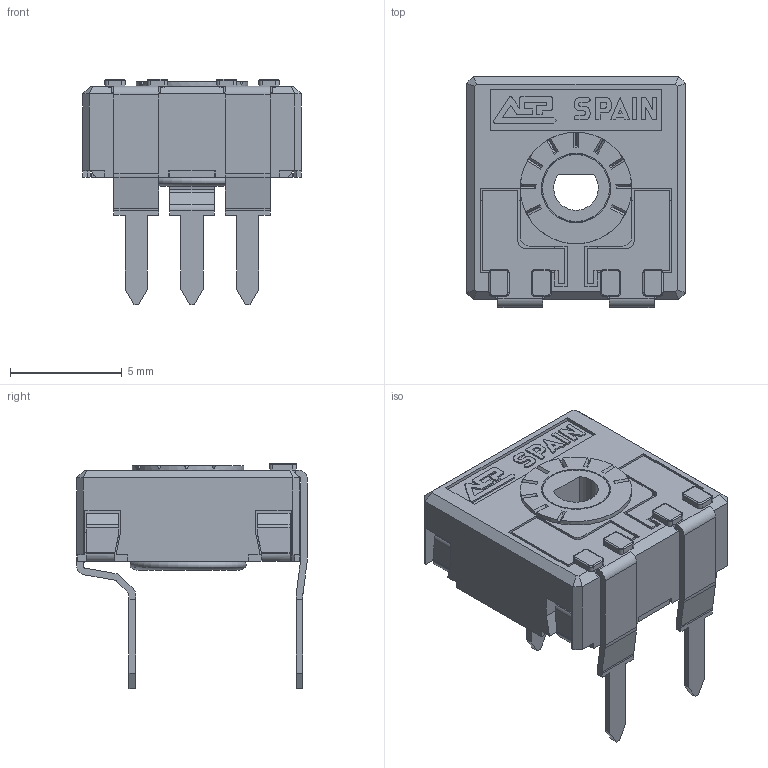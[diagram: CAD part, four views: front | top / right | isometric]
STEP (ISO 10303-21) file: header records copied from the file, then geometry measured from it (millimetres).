
FILE_DESCRIPTION(/* description */ (''),/* implementation_level */ '2;1');
FILE_NAME(/* name */ '\\SERVERACP\intercambio\Ignacio Santa Cecilia\Nueva WEB 2025\CA9 - CE9\CA9DV7,5.stp',/* time_stamp */ '2025-06-03T16:43:34+02:00',/* author */ ('CEM'),/* organization */ (''),/* preprocessor_version */ 'ST-DEVELOPER v17',/* originating_system */ 'Autodesk Inventor 2018',/* authorisation */ '');
FILE_SCHEMA (('AUTOMOTIVE_DESIGN { 1 0 10303 214 3 1 1 }'));
Length unit declared in the file: millimetre
Products named in the file (1): CA9DV7,5
Bounding box: 9.8 x 10.35 x 10.1 mm (x, y, z)
Volume: 248.9 mm3; surface area: 868.8 mm2
Topology: 2 solids, 2 shells, 616 faces, 1758 edges, 1129 vertices
Faces by surface type: plane 480, cylinder 100, torus 19, cone 17
Full cylindrical faces by diameter (mm): 3 x1, 3.1 x1, 4 x1, 4.8 x1, 5 x1
Entity records: 20097 total; most frequent: CARTESIAN_POINT 3562, ORIENTED_EDGE 3516, DIRECTION 3279, EDGE_CURVE 1758, LINE 1415, VECTOR 1415, VERTEX_POINT 1129, AXIS2_PLACEMENT_3D 932
